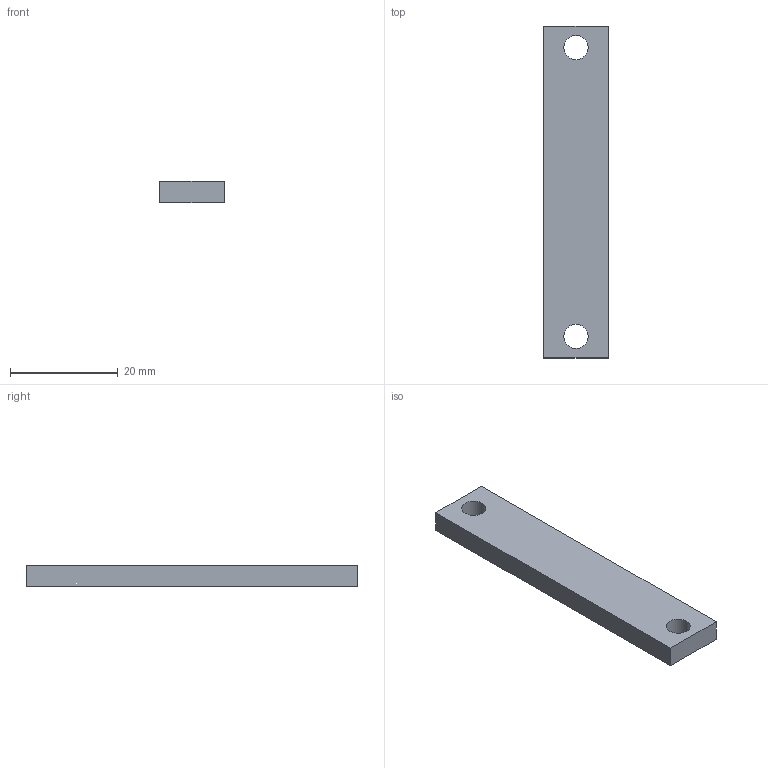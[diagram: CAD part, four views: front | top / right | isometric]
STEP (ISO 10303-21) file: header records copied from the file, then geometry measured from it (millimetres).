
FILE_DESCRIPTION(('Open CASCADE Model'),'2;1');
FILE_NAME('Open CASCADE Shape Model','2026-10-26T08:26:48',('Author'),( 'Open CASCADE'),'Open CASCADE STEP processor 7.8','Open CASCADE 7.8' ,'Unknown');
FILE_SCHEMA(('AUTOMOTIVE_DESIGN { 1 0 10303 214 1 1 1 1 }'));
Length unit declared in the file: millimetre
Products named in the file (1): Open CASCADE STEP translator 7.8 4
Bounding box: 12 x 61.6 x 4 mm (x, y, z)
Volume: 2829.6 mm3; surface area: 2116.7 mm2
Topology: 1 solids, 1 shells, 8 faces, 18 edges, 12 vertices
Faces by surface type: plane 6, cylinder 2
Full cylindrical faces by diameter (mm): 4.5 x2
Entity records: 478 total; most frequent: DIRECTION 76, CARTESIAN_POINT 75, LINE 46, VECTOR 46, ORIENTED_EDGE 36, PCURVE 36, DEFINITIONAL_REPRESENTATION 36, EDGE_CURVE 18
